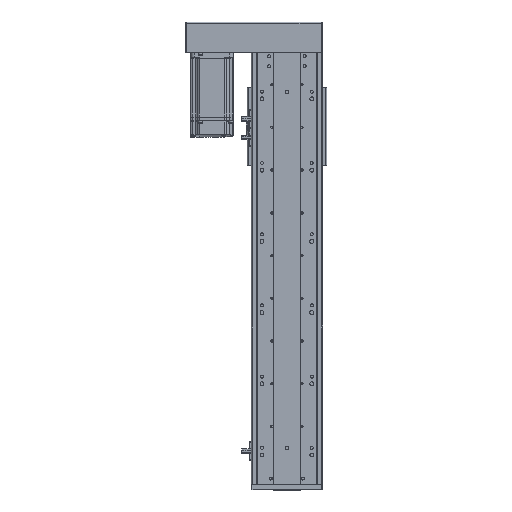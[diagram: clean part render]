
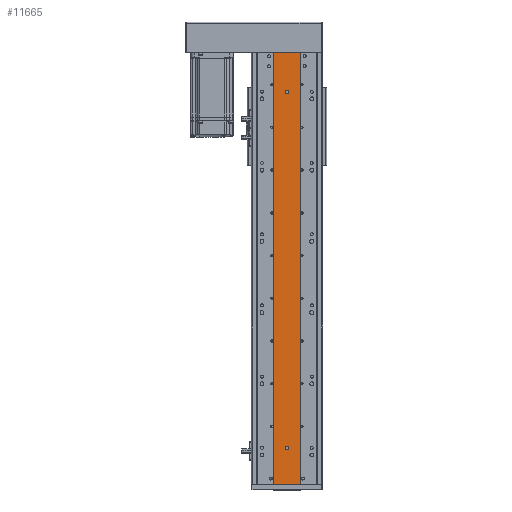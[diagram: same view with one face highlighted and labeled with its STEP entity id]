
A CAD part, top view. The second image highlights one B-rep face of the part: STEP entity #11665.
In plain terms, the highlighted planar face has unit normal (0, 0, 1).
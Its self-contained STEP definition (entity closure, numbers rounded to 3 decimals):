
#2570 = CARTESIAN_POINT ( 'NONE',  ( -10645.079, 606., -17040.86 ) ) ;
#2575 = DIRECTION ( 'NONE',  ( 0., 0., -1. ) ) ;
#2578 = PLANE ( 'NONE',  #18294 ) ;
#2596 = DIRECTION ( 'NONE',  ( -1., 0., 0. ) ) ;
#11665 = ADVANCED_FACE ( 'NONE', ( #24647, #24666, #24622 ), #2578, .F. ) ;
#13110 = DIRECTION ( 'NONE',  ( -1., 0., 0. ) ) ;
#13120 = DIRECTION ( 'NONE',  ( 0., 0., -1. ) ) ;
#13135 = CARTESIAN_POINT ( 'NONE',  ( -10626.079, 551., -17040.86 ) ) ;
#13170 = CARTESIAN_POINT ( 'NONE',  ( -10626.079, 51., -17040.86 ) ) ;
#13176 = DIRECTION ( 'NONE',  ( 0., 0., -1. ) ) ;
#13185 = DIRECTION ( 'NONE',  ( -1., 0., 0. ) ) ;
#14144 = EDGE_CURVE ( 'NONE', #43119, #43078, #26716, .T. ) ;
#14193 = EDGE_CURVE ( 'NONE', #49139, #49253, #26806, .T. ) ;
#14202 = EDGE_CURVE ( 'NONE', #43056, #43074, #26791, .T. ) ;
#14206 = EDGE_CURVE ( 'NONE', #49250, #49262, #26809, .T. ) ;
#14221 = EDGE_CURVE ( 'NONE', #43074, #43078, #26859, .T. ) ;
#14243 = EDGE_CURVE ( 'NONE', #43056, #43119, #26827, .T. ) ;
#17146 = EDGE_CURVE ( 'NONE', #49253, #49139, #35682, .T. ) ;
#17164 = EDGE_CURVE ( 'NONE', #49262, #49250, #35702, .T. ) ;
#18294 = AXIS2_PLACEMENT_3D ( 'NONE', #2570, #2575, #2596 ) ;
#24622 = FACE_OUTER_BOUND ( 'NONE', #47000, .T. ) ;
#24647 = FACE_BOUND ( 'NONE', #46957, .T. ) ;
#24666 = FACE_BOUND ( 'NONE', #47018, .T. ) ;
#26710 = VECTOR ( 'NONE', #27748, 1000. ) ;
#26716 = LINE ( 'NONE', #27767, #26710 ) ;
#26762 = VECTOR ( 'NONE', #27886, 1000. ) ;
#26791 = LINE ( 'NONE', #27884, #26762 ) ;
#26806 = CIRCLE ( 'NONE', #29970, 2.5 ) ;
#26809 = CIRCLE ( 'NONE', #29943, 2.5 ) ;
#26827 = LINE ( 'NONE', #27977, #26832 ) ;
#26832 = VECTOR ( 'NONE', #27980, 1000. ) ;
#26859 = LINE ( 'NONE', #27890, #26860 ) ;
#26860 = VECTOR ( 'NONE', #27942, 1000. ) ;
#27748 = DIRECTION ( 'NONE',  ( 0., -1., 0. ) ) ;
#27767 = CARTESIAN_POINT ( 'NONE',  ( -10607.079, 606., -17040.86 ) ) ;
#27854 = DIRECTION ( 'NONE',  ( -1., 0., 0. ) ) ;
#27871 = CARTESIAN_POINT ( 'NONE',  ( -10626.079, 551., -17040.86 ) ) ;
#27874 = DIRECTION ( 'NONE',  ( 0., 0., -1. ) ) ;
#27884 = CARTESIAN_POINT ( 'NONE',  ( -10645.079, 606., -17040.86 ) ) ;
#27886 = DIRECTION ( 'NONE',  ( 0., -1., 0. ) ) ;
#27890 = CARTESIAN_POINT ( 'NONE',  ( -10645.079, 0., -17040.86 ) ) ;
#27903 = DIRECTION ( 'NONE',  ( -1., 0., 0. ) ) ;
#27914 = DIRECTION ( 'NONE',  ( 0., 0., -1. ) ) ;
#27916 = CARTESIAN_POINT ( 'NONE',  ( -10626.079, 51., -17040.86 ) ) ;
#27942 = DIRECTION ( 'NONE',  ( 1., 0., 0. ) ) ;
#27977 = CARTESIAN_POINT ( 'NONE',  ( -10645.079, 606., -17040.86 ) ) ;
#27980 = DIRECTION ( 'NONE',  ( 1., 0., 0. ) ) ;
#29943 = AXIS2_PLACEMENT_3D ( 'NONE', #27916, #27914, #27903 ) ;
#29970 = AXIS2_PLACEMENT_3D ( 'NONE', #27871, #27874, #27854 ) ;
#30715 = AXIS2_PLACEMENT_3D ( 'NONE', #13170, #13176, #13185 ) ;
#30727 = AXIS2_PLACEMENT_3D ( 'NONE', #13135, #13120, #13110 ) ;
#35682 = CIRCLE ( 'NONE', #30727, 2.5 ) ;
#35702 = CIRCLE ( 'NONE', #30715, 2.5 ) ;
#36776 = CARTESIAN_POINT ( 'NONE',  ( -10607.079, 0., -17040.86 ) ) ;
#36782 = CARTESIAN_POINT ( 'NONE',  ( -10645.079, 0., -17040.86 ) ) ;
#36834 = CARTESIAN_POINT ( 'NONE',  ( -10645.079, 606., -17040.86 ) ) ;
#36858 = CARTESIAN_POINT ( 'NONE',  ( -10607.079, 606., -17040.86 ) ) ;
#37388 = CARTESIAN_POINT ( 'NONE',  ( -10628.579, 551., -17040.86 ) ) ;
#43056 = VERTEX_POINT ( 'NONE', #36834 ) ;
#43074 = VERTEX_POINT ( 'NONE', #36782 ) ;
#43078 = VERTEX_POINT ( 'NONE', #36776 ) ;
#43119 = VERTEX_POINT ( 'NONE', #36858 ) ;
#46957 = EDGE_LOOP ( 'NONE', ( #49058, #49016 ) ) ;
#47000 = EDGE_LOOP ( 'NONE', ( #49045, #49105, #49119, #49129 ) ) ;
#47018 = EDGE_LOOP ( 'NONE', ( #49044, #49048 ) ) ;
#47546 = CARTESIAN_POINT ( 'NONE',  ( -10623.579, 551., -17040.86 ) ) ;
#47573 = CARTESIAN_POINT ( 'NONE',  ( -10623.579, 51., -17040.86 ) ) ;
#47585 = CARTESIAN_POINT ( 'NONE',  ( -10628.579, 51., -17040.86 ) ) ;
#49016 = ORIENTED_EDGE ( 'NONE', *, *, #14193, .T. ) ;
#49044 = ORIENTED_EDGE ( 'NONE', *, *, #17164, .T. ) ;
#49045 = ORIENTED_EDGE ( 'NONE', *, *, #14221, .T. ) ;
#49048 = ORIENTED_EDGE ( 'NONE', *, *, #14206, .T. ) ;
#49058 = ORIENTED_EDGE ( 'NONE', *, *, #17146, .T. ) ;
#49105 = ORIENTED_EDGE ( 'NONE', *, *, #14144, .F. ) ;
#49119 = ORIENTED_EDGE ( 'NONE', *, *, #14243, .F. ) ;
#49129 = ORIENTED_EDGE ( 'NONE', *, *, #14202, .T. ) ;
#49139 = VERTEX_POINT ( 'NONE', #37388 ) ;
#49250 = VERTEX_POINT ( 'NONE', #47585 ) ;
#49253 = VERTEX_POINT ( 'NONE', #47546 ) ;
#49262 = VERTEX_POINT ( 'NONE', #47573 ) ;
